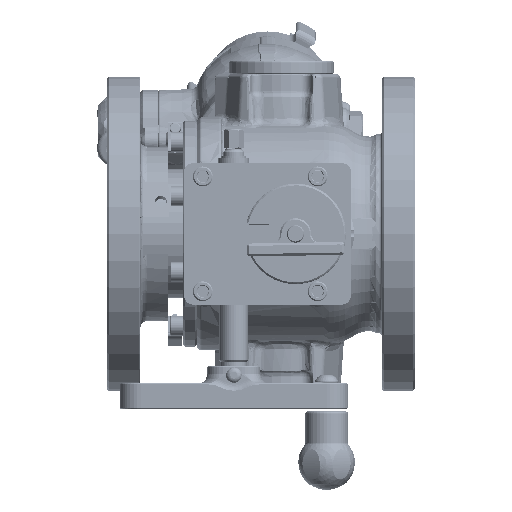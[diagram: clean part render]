
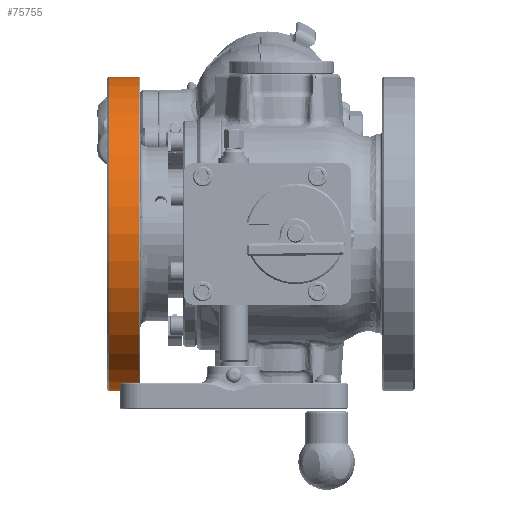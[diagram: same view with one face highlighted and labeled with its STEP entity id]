
A CAD part, left-side view. The second image highlights one B-rep face of the part: STEP entity #75755.
In plain terms, the highlighted cylindrical face has radius 113.03 mm (diameter 226.06 mm), a partial arc.
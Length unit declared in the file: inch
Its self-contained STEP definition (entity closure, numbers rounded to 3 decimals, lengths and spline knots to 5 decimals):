
#6816 = DIRECTION ( 'NONE',  ( 0., 1., 0. ) ) ;
#7584 = AXIS2_PLACEMENT_3D ( 'NONE', #118156, #6816, #116283 ) ;
#11741 = CARTESIAN_POINT ( 'NONE',  ( 0., 5.28, 4.45 ) ) ;
#14616 = ORIENTED_EDGE ( 'NONE', *, *, #133271, .F. ) ;
#21561 = LINE ( 'NONE', #106596, #175508 ) ;
#25776 = DIRECTION ( 'NONE',  ( 0., 1., 0. ) ) ;
#39858 = CYLINDRICAL_SURFACE ( 'NONE', #261621, 4.45 ) ;
#42402 = CARTESIAN_POINT ( 'NONE',  ( 0., 6.03338, 4.45 ) ) ;
#62697 = CIRCLE ( 'NONE', #236891, 4.45 ) ;
#62798 = LINE ( 'NONE', #42402, #251560 ) ;
#65380 = VERTEX_POINT ( 'NONE', #11741 ) ;
#75755 = ADVANCED_FACE ( 'NONE', ( #179814 ), #39858, .T. ) ;
#102116 = DIRECTION ( 'NONE',  ( 0., 0., 1. ) ) ;
#104573 = ORIENTED_EDGE ( 'NONE', *, *, #130482, .T. ) ;
#106596 = CARTESIAN_POINT ( 'NONE',  ( 0., 6.03338, -4.45 ) ) ;
#107940 = EDGE_CURVE ( 'NONE', #183648, #65380, #62697, .T. ) ;
#111624 = EDGE_CURVE ( 'NONE', #185348, #283165, #207291, .T. ) ;
#116215 = CARTESIAN_POINT ( 'NONE',  ( 0., 4.44, -4.45 ) ) ;
#116283 = DIRECTION ( 'NONE',  ( 0., 0., 1. ) ) ;
#118156 = CARTESIAN_POINT ( 'NONE',  ( 0., 4.44, 0. ) ) ;
#130482 = EDGE_CURVE ( 'NONE', #283165, #65380, #62798, .T. ) ;
#133271 = EDGE_CURVE ( 'NONE', #185348, #183648, #21561, .T. ) ;
#134196 = ORIENTED_EDGE ( 'NONE', *, *, #111624, .T. ) ;
#138974 = CARTESIAN_POINT ( 'NONE',  ( 0., 5.28, -4.45 ) ) ;
#148058 = CARTESIAN_POINT ( 'NONE',  ( 0., 6.03338, 0. ) ) ;
#151641 = DIRECTION ( 'NONE',  ( 0., 1., 0. ) ) ;
#164683 = EDGE_LOOP ( 'NONE', ( #14616, #134196, #104573, #272194 ) ) ;
#175508 = VECTOR ( 'NONE', #151641, 39.37008 ) ;
#179814 = FACE_OUTER_BOUND ( 'NONE', #164683, .T. ) ;
#181934 = CARTESIAN_POINT ( 'NONE',  ( 0., 5.28, 0. ) ) ;
#183648 = VERTEX_POINT ( 'NONE', #138974 ) ;
#183841 = DIRECTION ( 'NONE',  ( 0., 1., 0. ) ) ;
#185348 = VERTEX_POINT ( 'NONE', #116215 ) ;
#194855 = DIRECTION ( 'NONE',  ( 0., 1., 0. ) ) ;
#207291 = CIRCLE ( 'NONE', #7584, 4.45 ) ;
#229191 = CARTESIAN_POINT ( 'NONE',  ( 0., 4.44, 4.45 ) ) ;
#236891 = AXIS2_PLACEMENT_3D ( 'NONE', #181934, #183841, #250341 ) ;
#250341 = DIRECTION ( 'NONE',  ( 0., 0., 1. ) ) ;
#251560 = VECTOR ( 'NONE', #25776, 39.37008 ) ;
#261621 = AXIS2_PLACEMENT_3D ( 'NONE', #148058, #194855, #102116 ) ;
#272194 = ORIENTED_EDGE ( 'NONE', *, *, #107940, .F. ) ;
#283165 = VERTEX_POINT ( 'NONE', #229191 ) ;
